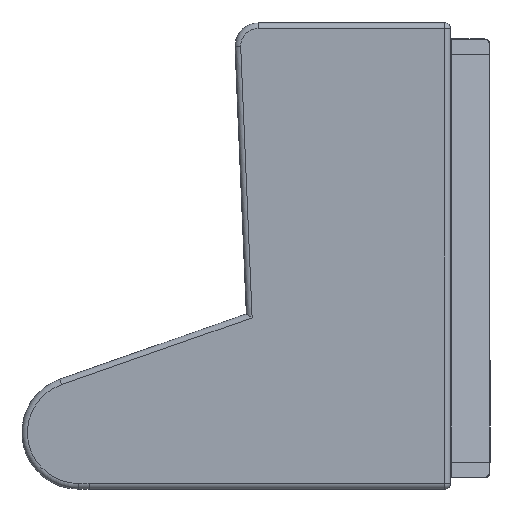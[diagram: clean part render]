
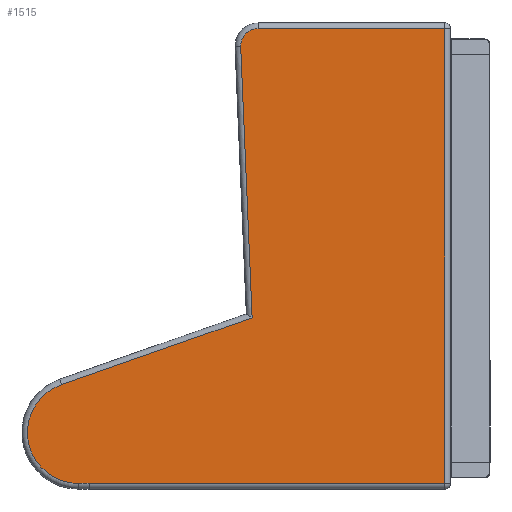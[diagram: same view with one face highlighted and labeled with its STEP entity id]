
A CAD part, left-side view. The second image highlights one B-rep face of the part: STEP entity #1515.
In plain terms, the highlighted planar face has unit normal (-1, 0, 0).
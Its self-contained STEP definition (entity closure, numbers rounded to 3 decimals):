
#68=PLANE('',#1657);
#128=FACE_OUTER_BOUND('',#232,.T.);
#232=EDGE_LOOP('',(#1066,#1067,#1068,#1069,#1070,#1071,#1072,#1073));
#334=CIRCLE('',#1658,31.);
#335=CIRCLE('',#1659,90.152);
#336=CIRCLE('',#1660,10939.15);
#410=LINE('',#2351,#554);
#411=LINE('',#2353,#555);
#412=LINE('',#2357,#556);
#413=LINE('',#2359,#557);
#414=LINE('',#2364,#558);
#554=VECTOR('',#1863,1000.);
#555=VECTOR('',#1864,1000.);
#556=VECTOR('',#1867,1000.);
#557=VECTOR('',#1868,1000.);
#558=VECTOR('',#1873,1000.);
#698=VERTEX_POINT('',#2349);
#699=VERTEX_POINT('',#2350);
#700=VERTEX_POINT('',#2352);
#701=VERTEX_POINT('',#2354);
#702=VERTEX_POINT('',#2356);
#703=VERTEX_POINT('',#2358);
#704=VERTEX_POINT('',#2360);
#705=VERTEX_POINT('',#2362);
#840=EDGE_CURVE('',#698,#699,#410,.T.);
#841=EDGE_CURVE('',#699,#700,#411,.T.);
#842=EDGE_CURVE('',#700,#701,#334,.T.);
#843=EDGE_CURVE('',#701,#702,#412,.T.);
#844=EDGE_CURVE('',#702,#703,#413,.T.);
#845=EDGE_CURVE('',#703,#704,#335,.T.);
#846=EDGE_CURVE('',#704,#705,#336,.T.);
#847=EDGE_CURVE('',#705,#698,#414,.T.);
#1066=ORIENTED_EDGE('',*,*,#840,.T.);
#1067=ORIENTED_EDGE('',*,*,#841,.T.);
#1068=ORIENTED_EDGE('',*,*,#842,.T.);
#1069=ORIENTED_EDGE('',*,*,#843,.T.);
#1070=ORIENTED_EDGE('',*,*,#844,.T.);
#1071=ORIENTED_EDGE('',*,*,#845,.T.);
#1072=ORIENTED_EDGE('',*,*,#846,.T.);
#1073=ORIENTED_EDGE('',*,*,#847,.T.);
#1515=ADVANCED_FACE('',(#128),#68,.F.);
#1657=AXIS2_PLACEMENT_3D('',#2348,#1861,#1862);
#1658=AXIS2_PLACEMENT_3D('',#2355,#1865,#1866);
#1659=AXIS2_PLACEMENT_3D('',#2361,#1869,#1870);
#1660=AXIS2_PLACEMENT_3D('',#2363,#1871,#1872);
#1861=DIRECTION('center_axis',(1.,0.,0.));
#1862=DIRECTION('ref_axis',(0.,0.,
-1.));
#1863=DIRECTION('',(0.,0.,1.));
#1864=DIRECTION('',(0.,1.,0.));
#1865=DIRECTION('center_axis',(-1.,0.,0.));
#1866=DIRECTION('ref_axis',(0.,0.,-1.));
#1867=DIRECTION('',(0.,-0.042,-0.999));
#1868=DIRECTION('',(0.,0.944,-0.331));
#1869=DIRECTION('center_axis',(-1.,0.,0.));
#1870=DIRECTION('ref_axis',(0.,0.,-1.));
#1871=DIRECTION('center_axis',(-1.,0.,0.));
#1872=DIRECTION('ref_axis',(0.,0.,
-1.));
#1873=DIRECTION('',(0.,-1.,0.));
#2348=CARTESIAN_POINT('Origin',(13.355,451.332,706.362));
#2349=CARTESIAN_POINT('',(13.355,120.296,-69.099));
#2350=CARTESIAN_POINT('',(13.355,120.296,737.362));
#2351=CARTESIAN_POINT('',(13.355,120.296,747.362));
#2352=CARTESIAN_POINT('',(13.355,451.332,737.362));
#2353=CARTESIAN_POINT('',(13.355,451.332,737.362));
#2354=CARTESIAN_POINT('',(13.355,482.305,705.052));
#2355=CARTESIAN_POINT('Origin',(13.355,451.332,706.362));
#2356=CARTESIAN_POINT('',(13.355,461.992,224.553));
#2357=CARTESIAN_POINT('',(13.355,462.305,231.961));
#2358=CARTESIAN_POINT('',(13.355,799.923,106.153));
#2359=CARTESIAN_POINT('',(13.355,799.923,106.153));
#2360=CARTESIAN_POINT('',(13.355,770.278,-69.081));
#2361=CARTESIAN_POINT('Origin',(13.355,770.113,21.072));
#2362=CARTESIAN_POINT('',(13.355,750.296,-69.099));
#2363=CARTESIAN_POINT('Origin',(13.355,750.296,10870.052));
#2364=CARTESIAN_POINT('',(13.355,110.296,-69.099));
